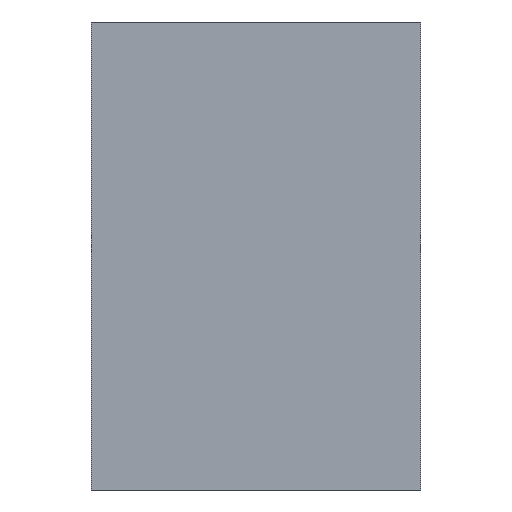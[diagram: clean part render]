
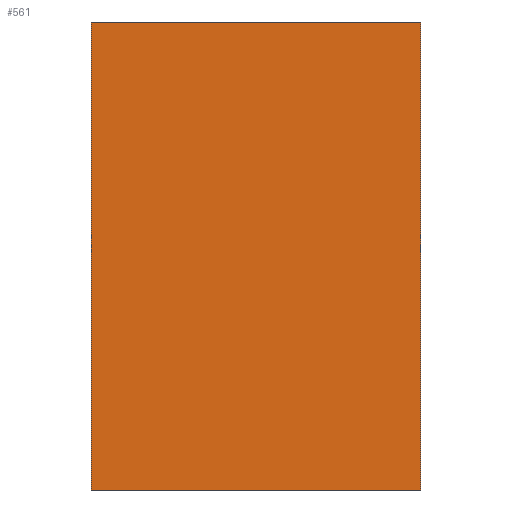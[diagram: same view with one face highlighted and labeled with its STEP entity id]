
A CAD part, left-side view. The second image highlights one B-rep face of the part: STEP entity #561.
In plain terms, the highlighted planar face has unit normal (-1, 0, 0).
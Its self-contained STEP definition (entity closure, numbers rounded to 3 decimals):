
#22 = VERTEX_POINT('',#23);
#23 = CARTESIAN_POINT('',(-34.,-19.,0.));
#32 = PLANE('',#33);
#33 = AXIS2_PLACEMENT_3D('',#34,#35,#36);
#34 = CARTESIAN_POINT('',(-31.,-19.,0.));
#35 = DIRECTION('',(0.,1.,0.));
#36 = DIRECTION('',(0.,0.,1.));
#44 = PLANE('',#45);
#45 = AXIS2_PLACEMENT_3D('',#46,#47,#48);
#46 = CARTESIAN_POINT('',(-31.,-19.,0.));
#47 = DIRECTION('',(0.,0.,1.));
#48 = DIRECTION('',(1.,0.,0.));
#56 = EDGE_CURVE('',#22,#57,#59,.T.);
#57 = VERTEX_POINT('',#58);
#58 = CARTESIAN_POINT('',(-34.,-19.,54.));
#59 = SURFACE_CURVE('',#60,(#64,#71),.PCURVE_S1.);
#60 = LINE('',#61,#62);
#61 = CARTESIAN_POINT('',(-34.,-19.,0.));
#62 = VECTOR('',#63,1.);
#63 = DIRECTION('',(0.,0.,1.));
#64 = PCURVE('',#32,#65);
#65 = DEFINITIONAL_REPRESENTATION('',(#66),#70);
#66 = LINE('',#67,#68);
#67 = CARTESIAN_POINT('',(0.,-3.));
#68 = VECTOR('',#69,1.);
#69 = DIRECTION('',(1.,0.));
#70 = ( GEOMETRIC_REPRESENTATION_CONTEXT(2) 
PARAMETRIC_REPRESENTATION_CONTEXT() REPRESENTATION_CONTEXT('2D SPACE',''
  ) );
#71 = PCURVE('',#72,#77);
#72 = PLANE('',#73);
#73 = AXIS2_PLACEMENT_3D('',#74,#75,#76);
#74 = CARTESIAN_POINT('',(-34.,-19.,0.));
#75 = DIRECTION('',(1.,0.,0.));
#76 = DIRECTION('',(0.,0.,1.));
#77 = DEFINITIONAL_REPRESENTATION('',(#78),#82);
#78 = LINE('',#79,#80);
#79 = CARTESIAN_POINT('',(0.,0.));
#80 = VECTOR('',#81,1.);
#81 = DIRECTION('',(1.,0.));
#82 = ( GEOMETRIC_REPRESENTATION_CONTEXT(2) 
PARAMETRIC_REPRESENTATION_CONTEXT() REPRESENTATION_CONTEXT('2D SPACE',''
  ) );
#100 = PLANE('',#101);
#101 = AXIS2_PLACEMENT_3D('',#102,#103,#104);
#102 = CARTESIAN_POINT('',(-34.,-19.,54.));
#103 = DIRECTION('',(0.,0.,1.));
#104 = DIRECTION('',(1.,0.,0.));
#254 = VERTEX_POINT('',#255);
#255 = CARTESIAN_POINT('',(-34.,19.,0.));
#271 = PLANE('',#272);
#272 = AXIS2_PLACEMENT_3D('',#273,#274,#275);
#273 = CARTESIAN_POINT('',(-31.,19.,0.));
#274 = DIRECTION('',(0.,1.,0.));
#275 = DIRECTION('',(0.,0.,1.));
#283 = EDGE_CURVE('',#22,#254,#284,.T.);
#284 = SURFACE_CURVE('',#285,(#289,#296),.PCURVE_S1.);
#285 = LINE('',#286,#287);
#286 = CARTESIAN_POINT('',(-34.,-19.,0.));
#287 = VECTOR('',#288,1.);
#288 = DIRECTION('',(0.,1.,0.));
#289 = PCURVE('',#44,#290);
#290 = DEFINITIONAL_REPRESENTATION('',(#291),#295);
#291 = LINE('',#292,#293);
#292 = CARTESIAN_POINT('',(-3.,0.));
#293 = VECTOR('',#294,1.);
#294 = DIRECTION('',(0.,1.));
#295 = ( GEOMETRIC_REPRESENTATION_CONTEXT(2) 
PARAMETRIC_REPRESENTATION_CONTEXT() REPRESENTATION_CONTEXT('2D SPACE',''
  ) );
#296 = PCURVE('',#72,#297);
#297 = DEFINITIONAL_REPRESENTATION('',(#298),#302);
#298 = LINE('',#299,#300);
#299 = CARTESIAN_POINT('',(0.,0.));
#300 = VECTOR('',#301,1.);
#301 = DIRECTION('',(0.,-1.));
#302 = ( GEOMETRIC_REPRESENTATION_CONTEXT(2) 
PARAMETRIC_REPRESENTATION_CONTEXT() REPRESENTATION_CONTEXT('2D SPACE',''
  ) );
#561 = ADVANCED_FACE('',(#562),#72,.F.);
#562 = FACE_BOUND('',#563,.F.);
#563 = EDGE_LOOP('',(#564,#565,#566,#589));
#564 = ORIENTED_EDGE('',*,*,#56,.F.);
#565 = ORIENTED_EDGE('',*,*,#283,.T.);
#566 = ORIENTED_EDGE('',*,*,#567,.T.);
#567 = EDGE_CURVE('',#254,#568,#570,.T.);
#568 = VERTEX_POINT('',#569);
#569 = CARTESIAN_POINT('',(-34.,19.,54.));
#570 = SURFACE_CURVE('',#571,(#575,#582),.PCURVE_S1.);
#571 = LINE('',#572,#573);
#572 = CARTESIAN_POINT('',(-34.,19.,0.));
#573 = VECTOR('',#574,1.);
#574 = DIRECTION('',(0.,0.,1.));
#575 = PCURVE('',#72,#576);
#576 = DEFINITIONAL_REPRESENTATION('',(#577),#581);
#577 = LINE('',#578,#579);
#578 = CARTESIAN_POINT('',(0.,-38.));
#579 = VECTOR('',#580,1.);
#580 = DIRECTION('',(1.,0.));
#581 = ( GEOMETRIC_REPRESENTATION_CONTEXT(2) 
PARAMETRIC_REPRESENTATION_CONTEXT() REPRESENTATION_CONTEXT('2D SPACE',''
  ) );
#582 = PCURVE('',#271,#583);
#583 = DEFINITIONAL_REPRESENTATION('',(#584),#588);
#584 = LINE('',#585,#586);
#585 = CARTESIAN_POINT('',(0.,-3.));
#586 = VECTOR('',#587,1.);
#587 = DIRECTION('',(1.,0.));
#588 = ( GEOMETRIC_REPRESENTATION_CONTEXT(2) 
PARAMETRIC_REPRESENTATION_CONTEXT() REPRESENTATION_CONTEXT('2D SPACE',''
  ) );
#589 = ORIENTED_EDGE('',*,*,#590,.F.);
#590 = EDGE_CURVE('',#57,#568,#591,.T.);
#591 = SURFACE_CURVE('',#592,(#596,#603),.PCURVE_S1.);
#592 = LINE('',#593,#594);
#593 = CARTESIAN_POINT('',(-34.,-19.,54.));
#594 = VECTOR('',#595,1.);
#595 = DIRECTION('',(0.,1.,0.));
#596 = PCURVE('',#72,#597);
#597 = DEFINITIONAL_REPRESENTATION('',(#598),#602);
#598 = LINE('',#599,#600);
#599 = CARTESIAN_POINT('',(54.,0.));
#600 = VECTOR('',#601,1.);
#601 = DIRECTION('',(0.,-1.));
#602 = ( GEOMETRIC_REPRESENTATION_CONTEXT(2) 
PARAMETRIC_REPRESENTATION_CONTEXT() REPRESENTATION_CONTEXT('2D SPACE',''
  ) );
#603 = PCURVE('',#100,#604);
#604 = DEFINITIONAL_REPRESENTATION('',(#605),#609);
#605 = LINE('',#606,#607);
#606 = CARTESIAN_POINT('',(0.,0.));
#607 = VECTOR('',#608,1.);
#608 = DIRECTION('',(0.,1.));
#609 = ( GEOMETRIC_REPRESENTATION_CONTEXT(2) 
PARAMETRIC_REPRESENTATION_CONTEXT() REPRESENTATION_CONTEXT('2D SPACE',''
  ) );
